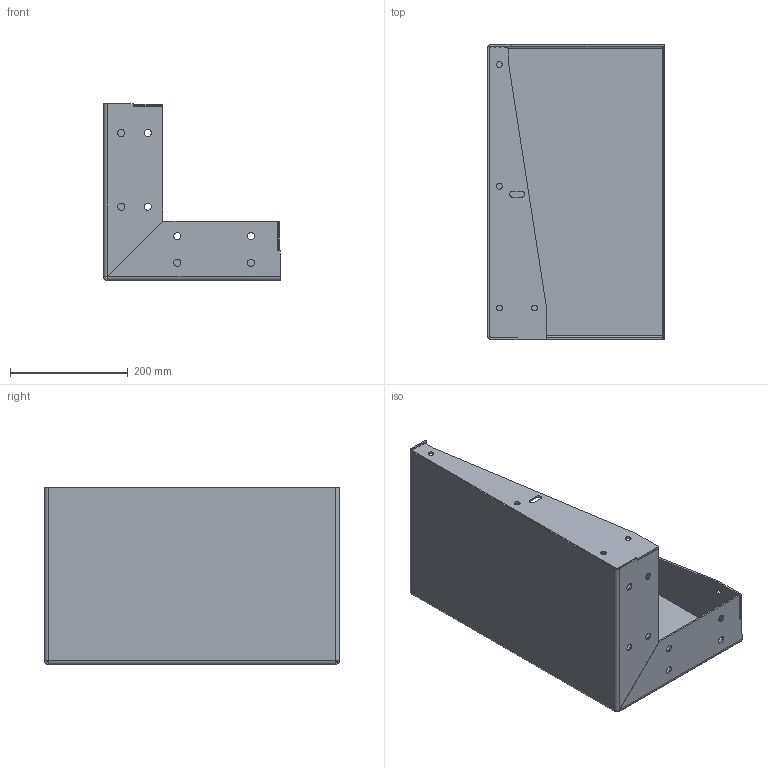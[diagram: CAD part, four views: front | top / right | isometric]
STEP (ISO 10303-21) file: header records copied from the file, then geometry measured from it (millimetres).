
FILE_DESCRIPTION (( 'STEP AP203' ), '1' );
FILE_NAME ('CORNER.STEP', '2026-03-31T12:01:59', ( '' ), ( '' ), 'SwSTEP 2.0', 'SolidWorks 2025', '' );
FILE_SCHEMA (( 'CONFIG_CONTROL_DESIGN' ));
Length unit declared in the file: millimetre
Products named in the file (3): CORNER; GS2; Part1^CORNER
Assembly tree (3 placements, depth 2):
  CORNER
    Part1^CORNER
    GS2  x2
Bounding box: 300 x 500 x 300 mm (x, y, z)
Volume: 1279606.3 mm3; surface area: 869624.6 mm2
Topology: 3 solids, 3 shells, 154 faces, 404 edges, 256 vertices
Faces by surface type: plane 76, cylinder 74, bspline 4
Entity records: 3935 total; most frequent: CARTESIAN_POINT 866, DIRECTION 586, ORIENTED_EDGE 556, EDGE_CURVE 278, AXIS2_PLACEMENT_3D 204, VECTOR 178, LINE 178, VERTEX_POINT 172
